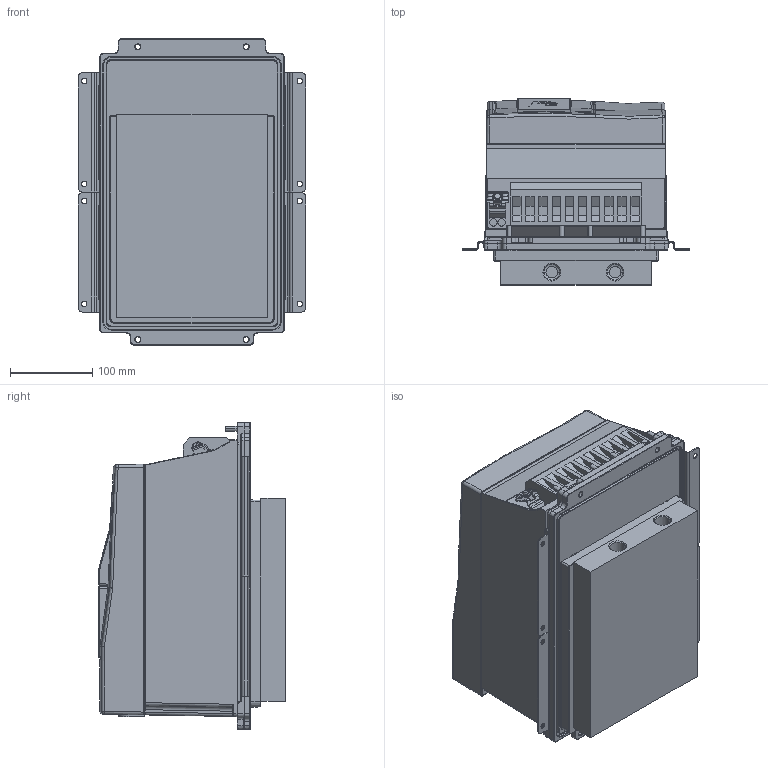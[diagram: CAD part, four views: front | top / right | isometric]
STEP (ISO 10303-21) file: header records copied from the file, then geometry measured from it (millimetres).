
FILE_DESCRIPTION (( 'STEP AP214' ), '1' );
FILE_NAME ('F6-4TK5-A010.STEP', '2020-12-10T12:39:38', ( '' ), ( '' ), 'SwSTEP 2.0', 'SolidWorks 2019', '' );
FILE_SCHEMA (( 'AUTOMOTIVE_DESIGN' ));
Length unit declared in the file: millimetre
Products named in the file (11): 10061645_000; 10059765_000; 10059761_000; 10058448_000; 10060814_000; 10044643_000_Kundenmodell; 10060692_000_Leistungsteil TK5 (Kundenmodell); 10059764_000_Blindabdeckung (Kundenmodell); 10032600_000_Kundenmodell; F6-4TK5-A010; 10061644_000_Deckel (Kundenmodell)
Assembly tree (10 placements, depth 4):
  F6-4TK5-A010
    10060692_000_Leistungsteil TK5 (Kundenmodell)
      10060814_000
    10032600_000_Kundenmodell
      10061644_000_Deckel (Kundenmodell)
        10061645_000
      10058448_000
    10044643_000_Kundenmodell
      10059764_000_Blindabdeckung (Kundenmodell)
        10059765_000
      10059761_000
Bounding box: 277 x 226.7 x 373 mm (x, y, z)
Volume: 14433200.4 mm3; surface area: 857153.4 mm2
Topology: 11 solids, 27 shells, 2653 faces, 6783 edges, 4219 vertices
Faces by surface type: plane 1123, cylinder 665, bspline 535, torus 177, cone 113, sphere 40
Entity records: 106630 total; most frequent: CARTESIAN_POINT 40207, ORIENTED_EDGE 13448, DIRECTION 11351, EDGE_CURVE 6724, VERTEX_POINT 4217, LINE 3785, VECTOR 3785, AXIS2_PLACEMENT_3D 3783
